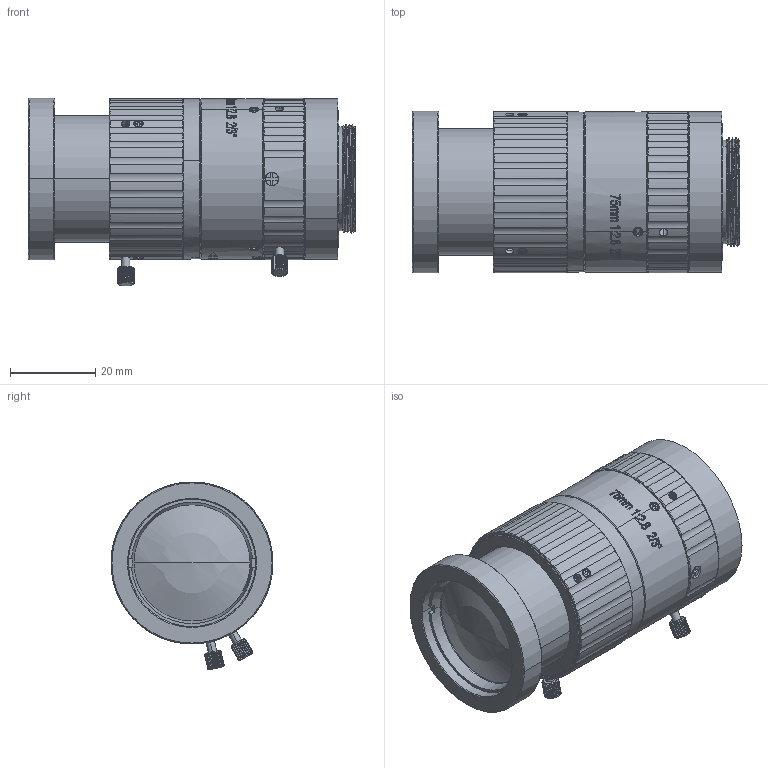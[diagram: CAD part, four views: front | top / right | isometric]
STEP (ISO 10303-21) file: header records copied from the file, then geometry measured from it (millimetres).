
FILE_DESCRIPTION((''),'2;1');
FILE_NAME('200_ASM','2022-10-09T',('SEELE'),(''),'PRO/ENGINEER BY PARAMETRIC TECHNOLOGY CORPORATION, 2010020','PRO/ENGINEER BY PARAMETRIC TECHNOLOGY CORPORATION, 2010020','');
FILE_SCHEMA(('AUTOMOTIVE_DESIGN_CC2 { 1 2 10303 214 -1 1 5 2 }'));
Products named in the file (1): 200_ASM
Bounding box: 76.91 x 38 x 44.13 mm (x, y, z)
Volume: 62958.3 mm3; surface area: 29175.5 mm2
Topology: 1 solids, 36 shells, 2084 faces, 5429 edges, 3504 vertices
Faces by surface type: plane 663, cylinder 649, bspline 419, cone 343, extrusion 8, sphere 2
Entity records: 86802 total; most frequent: CARTESIAN_POINT 37467, ORIENTED_EDGE 10838, DIRECTION 8487, EDGE_CURVE 5419, VERTEX_POINT 3521, AXIS2_PLACEMENT_3D 3087, VECTOR 2313, LINE 2305
